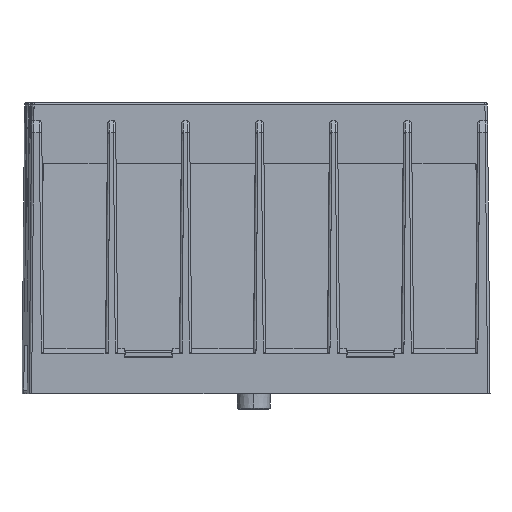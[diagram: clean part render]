
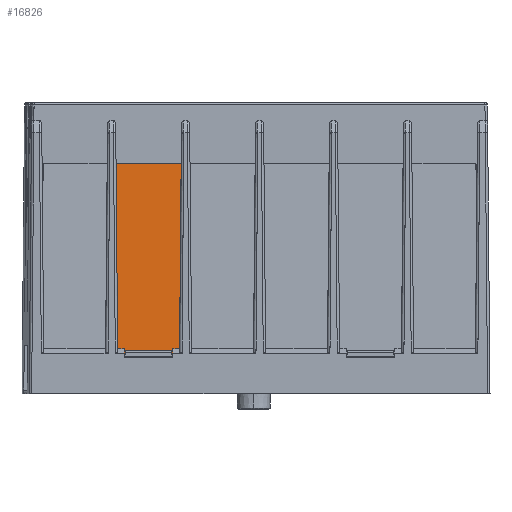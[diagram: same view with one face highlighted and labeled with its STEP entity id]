
A CAD part, front view. The second image highlights one B-rep face of the part: STEP entity #16826.
In plain terms, the highlighted planar face has unit normal (0.008, -0.999, 0.035).
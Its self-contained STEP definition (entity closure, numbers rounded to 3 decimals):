
#1382 = CARTESIAN_POINT ( 'NONE',  ( -10.713, -37.141, -0.422 ) ) ;
#1586 = DIRECTION ( 'NONE',  ( 1., 0.008, 0. ) ) ;
#2321 = DIRECTION ( 'NONE',  ( 0., -0.035, -0.999 ) ) ;
#2392 = EDGE_CURVE ( 'NONE', #36931, #10065, #9340, .T. ) ;
#3041 = VERTEX_POINT ( 'NONE', #48041 ) ;
#3238 = VECTOR ( 'NONE', #44540, 1000. ) ;
#3606 = EDGE_LOOP ( 'NONE', ( #23323, #26652, #44722, #32406 ) ) ;
#3651 = CARTESIAN_POINT ( 'NONE',  ( -6.109, -36.565, 15.014 ) ) ;
#3864 = DIRECTION ( 'NONE',  ( 0., -0.035, -0.999 ) ) ;
#4662 = CARTESIAN_POINT ( 'NONE',  ( -6.87, -37.11, -0.422 ) ) ;
#4808 = ORIENTED_EDGE ( 'NONE', *, *, #54324, .F. ) ;
#7052 = ORIENTED_EDGE ( 'NONE', *, *, #52296, .F. ) ;
#7820 = EDGE_CURVE ( 'NONE', #50632, #13535, #43485, .T. ) ;
#8234 = EDGE_CURVE ( 'NONE', #38315, #50632, #40127, .T. ) ;
#9127 = CARTESIAN_POINT ( 'NONE',  ( -6.791, -37.105, -0.286 ) ) ;
#9340 = LINE ( 'NONE', #13616, #42329 ) ;
#9583 = ORIENTED_EDGE ( 'NONE', *, *, #30723, .T. ) ;
#10065 = VERTEX_POINT ( 'NONE', #38324 ) ;
#10741 = DIRECTION ( 'NONE',  ( 1., 0.008, 0. ) ) ;
#11237 = DIRECTION ( 'NONE',  ( 0.008, 0.035, 0.999 ) ) ;
#11805 = FACE_BOUND ( 'NONE', #3606, .T. ) ;
#11996 = CARTESIAN_POINT ( 'NONE',  ( -10.791, -37.136, -0.286 ) ) ;
#12325 = CARTESIAN_POINT ( 'NONE',  ( -11.483, -36.608, 15.014 ) ) ;
#13535 = VERTEX_POINT ( 'NONE', #14130 ) ;
#13616 = CARTESIAN_POINT ( 'NONE',  ( -10.791, -37.136, -0.286 ) ) ;
#13785 = FACE_OUTER_BOUND ( 'NONE', #45574, .T. ) ;
#13961 = LINE ( 'NONE', #39021, #28414 ) ;
#14130 = CARTESIAN_POINT ( 'NONE',  ( -10.716, -37.157, -0.886 ) ) ;
#14591 = CARTESIAN_POINT ( 'NONE',  ( -6.791, -37.105, -0.286 ) ) ;
#14863 = ORIENTED_EDGE ( 'NONE', *, *, #34701, .T. ) ;
#14912 = DIRECTION ( 'NONE',  ( -1., -0.008, 0. ) ) ;
#15092 = CARTESIAN_POINT ( 'NONE',  ( -6.791, -37.129, -0.986 ) ) ;
#15296 = VERTEX_POINT ( 'NONE', #36583 ) ;
#16365 = VECTOR ( 'NONE', #17570, 1000. ) ;
#16452 = DIRECTION ( 'NONE',  ( -1., -0.008, 0. ) ) ;
#16748 = DIRECTION ( 'NONE',  ( 0.009, -0.035, -0.999 ) ) ;
#16826 = ADVANCED_FACE ( 'NONE', ( #13785, #11805 ), #44168, .T. ) ;
#17231 = ORIENTED_EDGE ( 'NONE', *, *, #28681, .T. ) ;
#17570 = DIRECTION ( 'NONE',  ( 0.009, -0.035, -0.999 ) ) ;
#17589 = DIRECTION ( 'NONE',  ( 1., 0.008, 0. ) ) ;
#17791 = CARTESIAN_POINT ( 'NONE',  ( -6.87, -37.11, -0.422 ) ) ;
#17867 = DIRECTION ( 'NONE',  ( 0., -0.035, -0.999 ) ) ;
#18736 = CARTESIAN_POINT ( 'NONE',  ( -6.866, -37.126, -0.886 ) ) ;
#18911 = DIRECTION ( 'NONE',  ( 0.008, -0.999, 0.035 ) ) ;
#18940 = VECTOR ( 'NONE', #16748, 1000. ) ;
#20396 = CARTESIAN_POINT ( 'NONE',  ( -11.483, -36.608, 15.014 ) ) ;
#23323 = ORIENTED_EDGE ( 'NONE', *, *, #7820, .T. ) ;
#23356 = VERTEX_POINT ( 'NONE', #14591 ) ;
#25620 = EDGE_CURVE ( 'NONE', #39844, #38315, #13961, .T. ) ;
#25704 = VECTOR ( 'NONE', #14912, 1000. ) ;
#26652 = ORIENTED_EDGE ( 'NONE', *, *, #45553, .T. ) ;
#27239 = LINE ( 'NONE', #32062, #39751 ) ;
#27671 = LINE ( 'NONE', #15092, #25704 ) ;
#28066 = LINE ( 'NONE', #52658, #50544 ) ;
#28414 = VECTOR ( 'NONE', #1586, 1000. ) ;
#28546 = LINE ( 'NONE', #35663, #51712 ) ;
#28681 = EDGE_CURVE ( 'NONE', #47328, #54363, #38749, .T. ) ;
#30008 = EDGE_CURVE ( 'NONE', #54363, #15296, #34736, .T. ) ;
#30723 = EDGE_CURVE ( 'NONE', #15296, #36931, #28066, .T. ) ;
#31262 = VECTOR ( 'NONE', #17589, 1000. ) ;
#32062 = CARTESIAN_POINT ( 'NONE',  ( -6.238, -37.1, -0.286 ) ) ;
#32406 = ORIENTED_EDGE ( 'NONE', *, *, #8234, .T. ) ;
#32683 = VERTEX_POINT ( 'NONE', #39752 ) ;
#34701 = EDGE_CURVE ( 'NONE', #23356, #3041, #37840, .T. ) ;
#34736 = LINE ( 'NONE', #12325, #18940 ) ;
#35663 = CARTESIAN_POINT ( 'NONE',  ( -10.716, -37.157, -0.886 ) ) ;
#36086 = VECTOR ( 'NONE', #16452, 1000. ) ;
#36583 = CARTESIAN_POINT ( 'NONE',  ( -11.345, -37.141, -0.286 ) ) ;
#36931 = VERTEX_POINT ( 'NONE', #11996 ) ;
#37703 = LINE ( 'NONE', #49981, #52347 ) ;
#37840 = LINE ( 'NONE', #9127, #31262 ) ;
#38150 = ORIENTED_EDGE ( 'NONE', *, *, #46056, .T. ) ;
#38315 = VERTEX_POINT ( 'NONE', #17791 ) ;
#38324 = CARTESIAN_POINT ( 'NONE',  ( -10.791, -37.161, -0.986 ) ) ;
#38749 = LINE ( 'NONE', #54665, #36086 ) ;
#39021 = CARTESIAN_POINT ( 'NONE',  ( -10.713, -37.141, -0.422 ) ) ;
#39751 = VECTOR ( 'NONE', #11237, 1000. ) ;
#39752 = CARTESIAN_POINT ( 'NONE',  ( -6.791, -37.129, -0.986 ) ) ;
#39844 = VERTEX_POINT ( 'NONE', #1382 ) ;
#40126 = DIRECTION ( 'NONE',  ( 0.008, 0.035, 0.999 ) ) ;
#40127 = LINE ( 'NONE', #4662, #16365 ) ;
#41857 = ORIENTED_EDGE ( 'NONE', *, *, #30008, .T. ) ;
#42329 = VECTOR ( 'NONE', #17867, 1000. ) ;
#43485 = LINE ( 'NONE', #18736, #3238 ) ;
#43992 = CARTESIAN_POINT ( 'NONE',  ( -18.105, -37.324, -3.986 ) ) ;
#44168 = PLANE ( 'NONE',  #54768 ) ;
#44540 = DIRECTION ( 'NONE',  ( -1., -0.008, 0. ) ) ;
#44722 = ORIENTED_EDGE ( 'NONE', *, *, #25620, .T. ) ;
#45553 = EDGE_CURVE ( 'NONE', #13535, #39844, #28546, .T. ) ;
#45574 = EDGE_LOOP ( 'NONE', ( #7052, #14863, #38150, #17231, #41857, #9583, #49972, #4808 ) ) ;
#46056 = EDGE_CURVE ( 'NONE', #3041, #47328, #27239, .T. ) ;
#47328 = VERTEX_POINT ( 'NONE', #3651 ) ;
#48041 = CARTESIAN_POINT ( 'NONE',  ( -6.238, -37.1, -0.286 ) ) ;
#49972 = ORIENTED_EDGE ( 'NONE', *, *, #2392, .T. ) ;
#49981 = CARTESIAN_POINT ( 'NONE',  ( -6.791, -37.105, -0.286 ) ) ;
#50544 = VECTOR ( 'NONE', #10741, 1000. ) ;
#50632 = VERTEX_POINT ( 'NONE', #54659 ) ;
#51712 = VECTOR ( 'NONE', #40126, 1000. ) ;
#52296 = EDGE_CURVE ( 'NONE', #23356, #32683, #37703, .T. ) ;
#52347 = VECTOR ( 'NONE', #3864, 1000. ) ;
#52658 = CARTESIAN_POINT ( 'NONE',  ( -11.345, -37.141, -0.286 ) ) ;
#54324 = EDGE_CURVE ( 'NONE', #32683, #10065, #27671, .T. ) ;
#54363 = VERTEX_POINT ( 'NONE', #20396 ) ;
#54659 = CARTESIAN_POINT ( 'NONE',  ( -6.866, -37.126, -0.886 ) ) ;
#54665 = CARTESIAN_POINT ( 'NONE',  ( -6.109, -36.565, 15.014 ) ) ;
#54768 = AXIS2_PLACEMENT_3D ( 'NONE', #43992, #18911, #2321 ) ;
